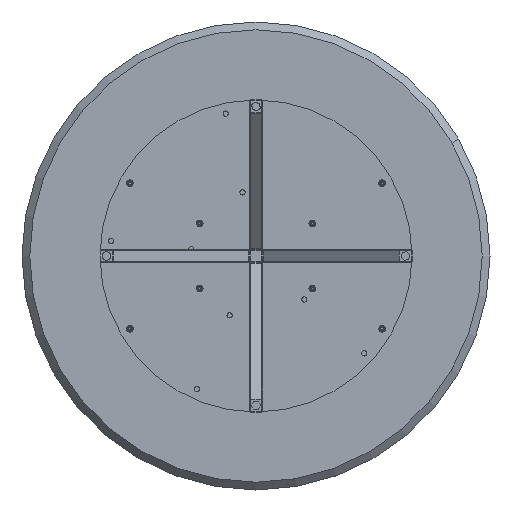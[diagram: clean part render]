
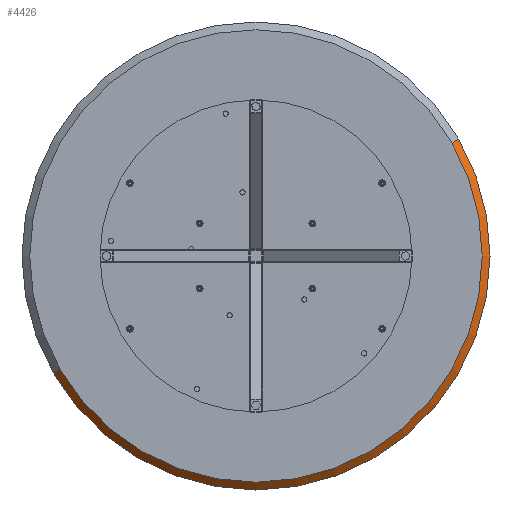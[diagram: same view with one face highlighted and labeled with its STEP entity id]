
A CAD part, front view. The second image highlights one B-rep face of the part: STEP entity #4426.
In plain terms, the highlighted conical face has half-angle 45 degrees and reference radius 450 mm.
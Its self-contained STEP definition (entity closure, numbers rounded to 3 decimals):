
#1538 = AXIS2_PLACEMENT_3D ( 'NONE', #22541, #10636, #4751 ) ;
#1549 = DIRECTION ( 'NONE',  ( 0., 0., 1. ) ) ;
#2106 = ORIENTED_EDGE ( 'NONE', *, *, #6134, .F. ) ;
#2160 = EDGE_CURVE ( 'NONE', #22904, #20985, #23742, .T. ) ;
#2171 = AXIS2_PLACEMENT_3D ( 'NONE', #22706, #12677, #24849 ) ;
#2314 = ORIENTED_EDGE ( 'NONE', *, *, #2160, .F. ) ;
#2432 = AXIS2_PLACEMENT_3D ( 'NONE', #4092, #19868, #1549 ) ;
#4092 = CARTESIAN_POINT ( 'NONE',  ( 0., 0., 0. ) ) ;
#4420 = CARTESIAN_POINT ( 'NONE',  ( 0., 0., -435. ) ) ;
#4426 = ADVANCED_FACE ( 'NONE', ( #20533 ), #21172, .T. ) ;
#4751 = DIRECTION ( 'NONE',  ( 0., 0., 1. ) ) ;
#5697 = DIRECTION ( 'NONE',  ( 0., 0.707, 0.707 ) ) ;
#6015 = CIRCLE ( 'NONE', #2171, 450. ) ;
#6134 = EDGE_CURVE ( 'NONE', #21586, #13133, #6015, .T. ) ;
#7990 = ORIENTED_EDGE ( 'NONE', *, *, #17877, .T. ) ;
#9906 = EDGE_LOOP ( 'NONE', ( #2314, #7990, #2106, #23797 ) ) ;
#10079 = CARTESIAN_POINT ( 'NONE',  ( 0., 0., 435. ) ) ;
#10636 = DIRECTION ( 'NONE',  ( 0., 1., 0. ) ) ;
#10933 = CARTESIAN_POINT ( 'NONE',  ( 0., 15., 450. ) ) ;
#12576 = CARTESIAN_POINT ( 'NONE',  ( 0., 15., -450. ) ) ;
#12677 = DIRECTION ( 'NONE',  ( 0., 1., 0. ) ) ;
#13133 = VERTEX_POINT ( 'NONE', #19083 ) ;
#16821 = VECTOR ( 'NONE', #20725, 1000. ) ;
#17115 = EDGE_CURVE ( 'NONE', #20985, #21586, #18493, .T. ) ;
#17877 = EDGE_CURVE ( 'NONE', #22904, #13133, #20980, .T. ) ;
#18493 = LINE ( 'NONE', #20367, #18885 ) ;
#18885 = VECTOR ( 'NONE', #5697, 1000. ) ;
#19083 = CARTESIAN_POINT ( 'NONE',  ( 0., 15., -450. ) ) ;
#19868 = DIRECTION ( 'NONE',  ( 0., -1., 0. ) ) ;
#20367 = CARTESIAN_POINT ( 'NONE',  ( 0., 15., 450. ) ) ;
#20533 = FACE_OUTER_BOUND ( 'NONE', #9906, .T. ) ;
#20725 = DIRECTION ( 'NONE',  ( 0., 0.707, -0.707 ) ) ;
#20980 = LINE ( 'NONE', #12576, #16821 ) ;
#20985 = VERTEX_POINT ( 'NONE', #10079 ) ;
#21172 = CONICAL_SURFACE ( 'NONE', #1538, 450., 0.785 ) ;
#21586 = VERTEX_POINT ( 'NONE', #10933 ) ;
#22541 = CARTESIAN_POINT ( 'NONE',  ( 0., 15., 0. ) ) ;
#22706 = CARTESIAN_POINT ( 'NONE',  ( 0., 15., 0. ) ) ;
#22904 = VERTEX_POINT ( 'NONE', #4420 ) ;
#23742 = CIRCLE ( 'NONE', #2432, 435. ) ;
#23797 = ORIENTED_EDGE ( 'NONE', *, *, #17115, .F. ) ;
#24849 = DIRECTION ( 'NONE',  ( 0., 0., 1. ) ) ;
